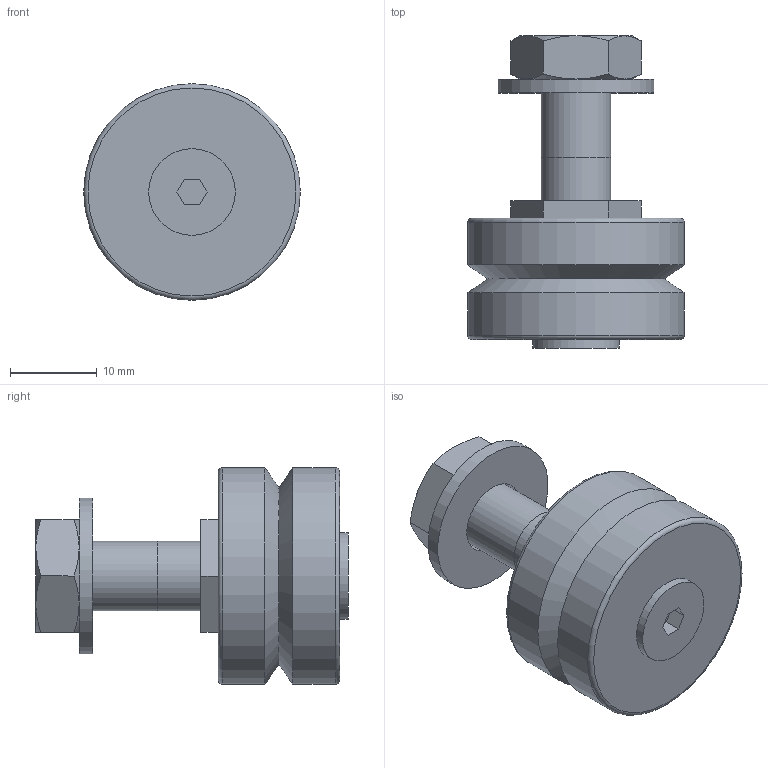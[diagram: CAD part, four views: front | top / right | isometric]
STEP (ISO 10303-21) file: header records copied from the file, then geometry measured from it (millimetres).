
FILE_DESCRIPTION(('STEP AP203'),'1');
FILE_NAME('//192.168.1.1/share/s-4 技術開発/s-4-4_CAD/s-4-4-6_見直し、確認済み/013 修正済み(済)/ジャーナル_TOP/NAL/NAL-25-C.step','2022-03-11T07:31:36',(' '),(' '),'Spatial InterOp 3D',' ',' ');
FILE_SCHEMA(('CONFIG_CONTROL_DESIGN'));
Length unit declared in the file: millimetre
Products named in the file (3): 1; 2; 3
Bounding box: 25 x 36.05 x 25 mm (x, y, z)
Volume: 8753.5 mm3; surface area: 3870.1 mm2
Topology: 3 solids, 3 shells, 52 faces, 113 edges, 70 vertices
Faces by surface type: plane 27, cone 14, cylinder 8, torus 2, sphere 1
Full cylindrical faces by diameter (mm): 6.75 x1, 8 x2, 8.5 x1, 10 x1, 18 x1, 25 x2
Entity records: 1526 total; most frequent: CARTESIAN_POINT 353, DIRECTION 212, ORIENTED_EDGE 192, EDGE_CURVE 96, AXIS2_PLACEMENT_3D 85, EDGE_LOOP 72, VERTEX_POINT 66, FACE_OUTER_BOUND 62
